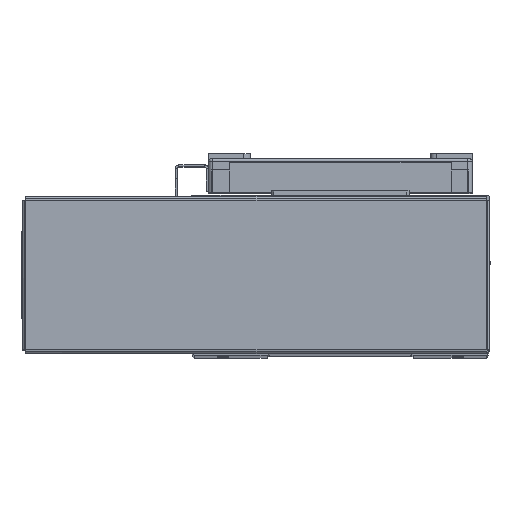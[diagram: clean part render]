
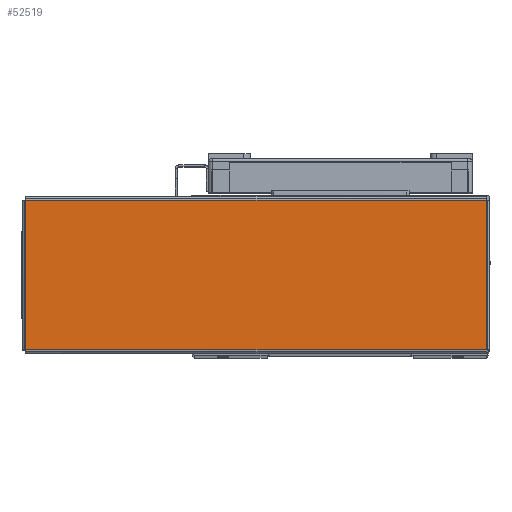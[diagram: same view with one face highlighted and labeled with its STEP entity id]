
A CAD part, top view. The second image highlights one B-rep face of the part: STEP entity #52519.
In plain terms, the highlighted planar face has unit normal (0, 0, 1) as drawn and (0, -1, 0) by its records, which use the part's own axes.
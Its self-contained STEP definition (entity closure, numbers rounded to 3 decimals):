
#9091 = EDGE_CURVE ( 'NONE', #60780, #60861, #18783, .T. ) ;
#9113 = EDGE_CURVE ( 'NONE', #60861, #60854, #18787, .T. ) ;
#9114 = EDGE_CURVE ( 'NONE', #60854, #60648, #18778, .T. ) ;
#9125 = EDGE_CURVE ( 'NONE', #60648, #60780, #18799, .T. ) ;
#14640 = ORIENTED_EDGE ( 'NONE', *, *, #9125, .T. ) ;
#14708 = ORIENTED_EDGE ( 'NONE', *, *, #9113, .T. ) ;
#14730 = ORIENTED_EDGE ( 'NONE', *, *, #9091, .T. ) ;
#14830 = ORIENTED_EDGE ( 'NONE', *, *, #9114, .T. ) ;
#18768 = VECTOR ( 'NONE', #20741, 1000. ) ;
#18778 = LINE ( 'NONE', #20760, #18793 ) ;
#18783 = LINE ( 'NONE', #20718, #18768 ) ;
#18787 = LINE ( 'NONE', #20774, #18792 ) ;
#18792 = VECTOR ( 'NONE', #20784, 1000. ) ;
#18793 = VECTOR ( 'NONE', #20815, 1000. ) ;
#18799 = LINE ( 'NONE', #20821, #18817 ) ;
#18817 = VECTOR ( 'NONE', #20820, 1000. ) ;
#20718 = CARTESIAN_POINT ( 'NONE',  ( -103.763, -1., 33.793 ) ) ;
#20741 = DIRECTION ( 'NONE',  ( 0., 0., -1. ) ) ;
#20760 = CARTESIAN_POINT ( 'NONE',  ( 103.763, -1., -33.793 ) ) ;
#20774 = CARTESIAN_POINT ( 'NONE',  ( -103.793, -1., -33.763 ) ) ;
#20784 = DIRECTION ( 'NONE',  ( 1., 0., 0. ) ) ;
#20815 = DIRECTION ( 'NONE',  ( 0., 0., 1. ) ) ;
#20820 = DIRECTION ( 'NONE',  ( -1., 0., 0. ) ) ;
#20821 = CARTESIAN_POINT ( 'NONE',  ( 103.793, -1., 33.763 ) ) ;
#33589 = FACE_OUTER_BOUND ( 'NONE', #63306, .T. ) ;
#36818 = CARTESIAN_POINT ( 'NONE',  ( 0., -1., 0. ) ) ;
#36823 = DIRECTION ( 'NONE',  ( 0., 1., 0. ) ) ;
#36842 = DIRECTION ( 'NONE',  ( 0., 0., 1. ) ) ;
#36844 = PLANE ( 'NONE',  #43723 ) ;
#43723 = AXIS2_PLACEMENT_3D ( 'NONE', #36818, #36823, #36842 ) ;
#52519 = ADVANCED_FACE ( 'NONE', ( #33589 ), #36844, .F. ) ;
#60648 = VERTEX_POINT ( 'NONE', #60899 ) ;
#60780 = VERTEX_POINT ( 'NONE', #60994 ) ;
#60854 = VERTEX_POINT ( 'NONE', #61111 ) ;
#60861 = VERTEX_POINT ( 'NONE', #61154 ) ;
#60899 = CARTESIAN_POINT ( 'NONE',  ( 103.763, -1., 33.763 ) ) ;
#60994 = CARTESIAN_POINT ( 'NONE',  ( -103.763, -1., 33.763 ) ) ;
#61111 = CARTESIAN_POINT ( 'NONE',  ( 103.763, -1., -33.763 ) ) ;
#61154 = CARTESIAN_POINT ( 'NONE',  ( -103.763, -1., -33.763 ) ) ;
#63306 = EDGE_LOOP ( 'NONE', ( #14640, #14730, #14708, #14830 ) ) ;
